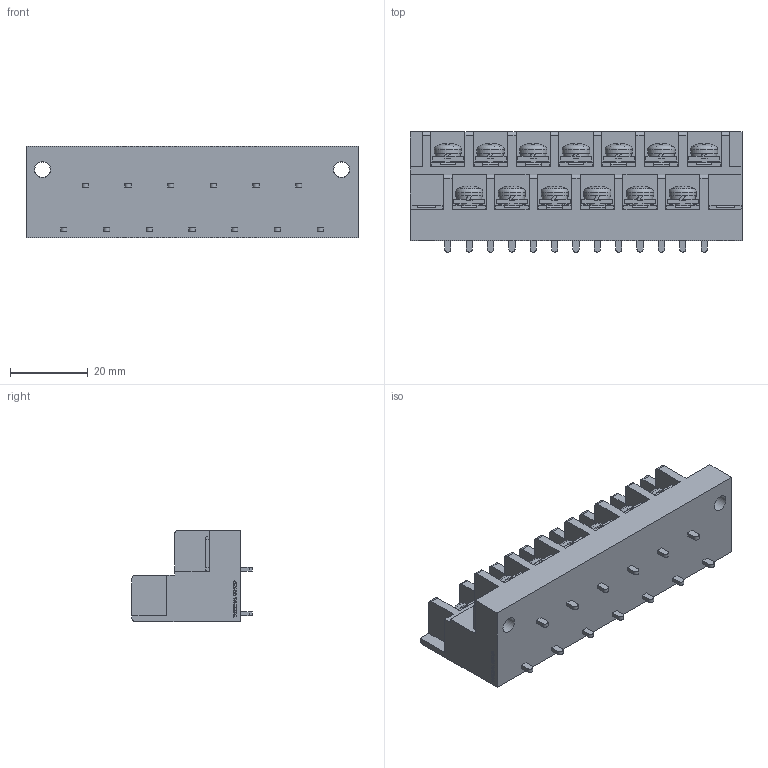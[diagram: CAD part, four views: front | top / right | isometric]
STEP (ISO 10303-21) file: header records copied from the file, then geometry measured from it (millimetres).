
FILE_DESCRIPTION(/* description */ ('Alibre Inc.'),/* implementation_level */ '2;1');
FILE_NAME(/* name */ 'export0',/* time_stamp */ '2016-08-05T14:16:17+09:00',/* author */ (''),/* organization */ (''),/* preprocessor_version */ 'ST-DEVELOPER v14',/* originating_system */ 'Alibre',/* authorisation */ '');
FILE_SCHEMA (('CONFIG_CONTROL_DESIGN'));
Length unit declared in the file: centimetre
Products named in the file (1): ID_1
Bounding box: 85.5 x 31 x 23.5 mm (x, y, z)
Volume: 35464.9 mm3; surface area: 16593.9 mm2
Topology: 1 solids, 126 shells, 2909 faces, 7612 edges, 5019 vertices
Faces by surface type: plane 2241, bspline 462, cylinder 115, cone 52, torus 26, sphere 13
Full cylindrical faces by diameter (mm): 4 x15, 4.2 x2, 7 x13
Entity records: 85058 total; most frequent: CARTESIAN_POINT 19676, ORIENTED_EDGE 15186, DIRECTION 9448, EDGE_CURVE 7541, VECTOR 5713, LINE 5713, VERTEX_POINT 5004, EDGE_LOOP 3149
